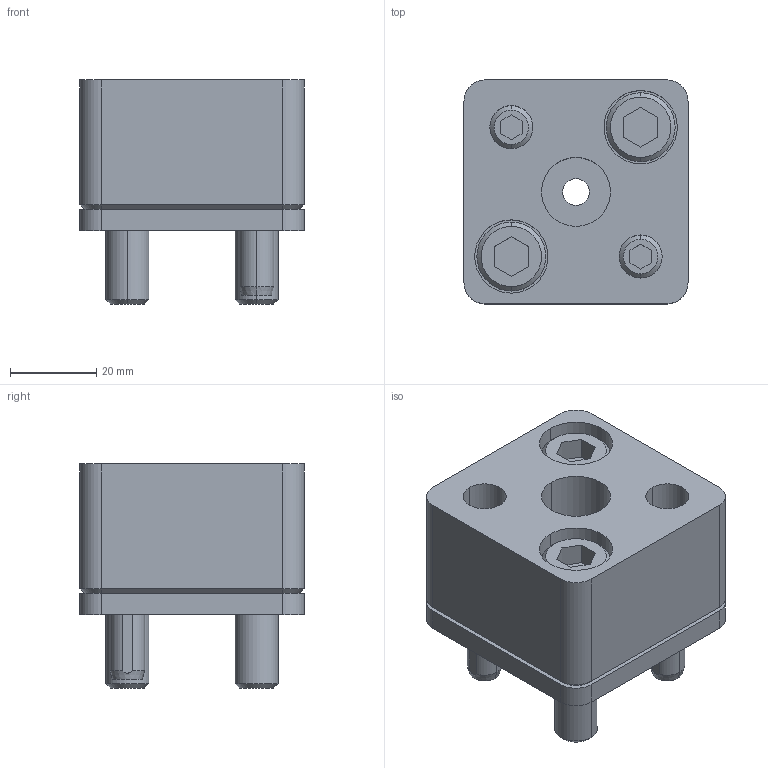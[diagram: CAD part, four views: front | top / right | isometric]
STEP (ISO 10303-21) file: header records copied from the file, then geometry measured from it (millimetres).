
FILE_DESCRIPTION(/* description */ (''),/* implementation_level */ '2;1');
FILE_NAME(/* name */ '3d_hsr-ap16_02779_r00.stp',/* time_stamp */ '2011-01-10T14:14:35+09:00',/* author */ ('MISUMI'),/* organization */ (''),/* preprocessor_version */ 'ST-DEVELOPER v11',/* originating_system */ 'UGS - NX 5.0',/* authorisation */ '');
FILE_SCHEMA (('CONFIG_CONTROL_DESIGN'));
Length unit declared in the file: millimetre
Products named in the file (1): 3d_hsr-ap16_02779_r00
Bounding box: 52 x 52 x 52 mm (x, y, z)
Volume: 85670.2 mm3; surface area: 29720.3 mm2
Topology: 8 solids, 8 shells, 163 faces, 362 edges, 230 vertices
Faces by surface type: plane 69, cylinder 64, cone 30
Entity records: 4678 total; most frequent: DIRECTION 840, CARTESIAN_POINT 816, ORIENTED_EDGE 724, EDGE_CURVE 362, AXIS2_PLACEMENT_3D 322, VERTEX_POINT 230, EDGE_LOOP 198, LINE 196
